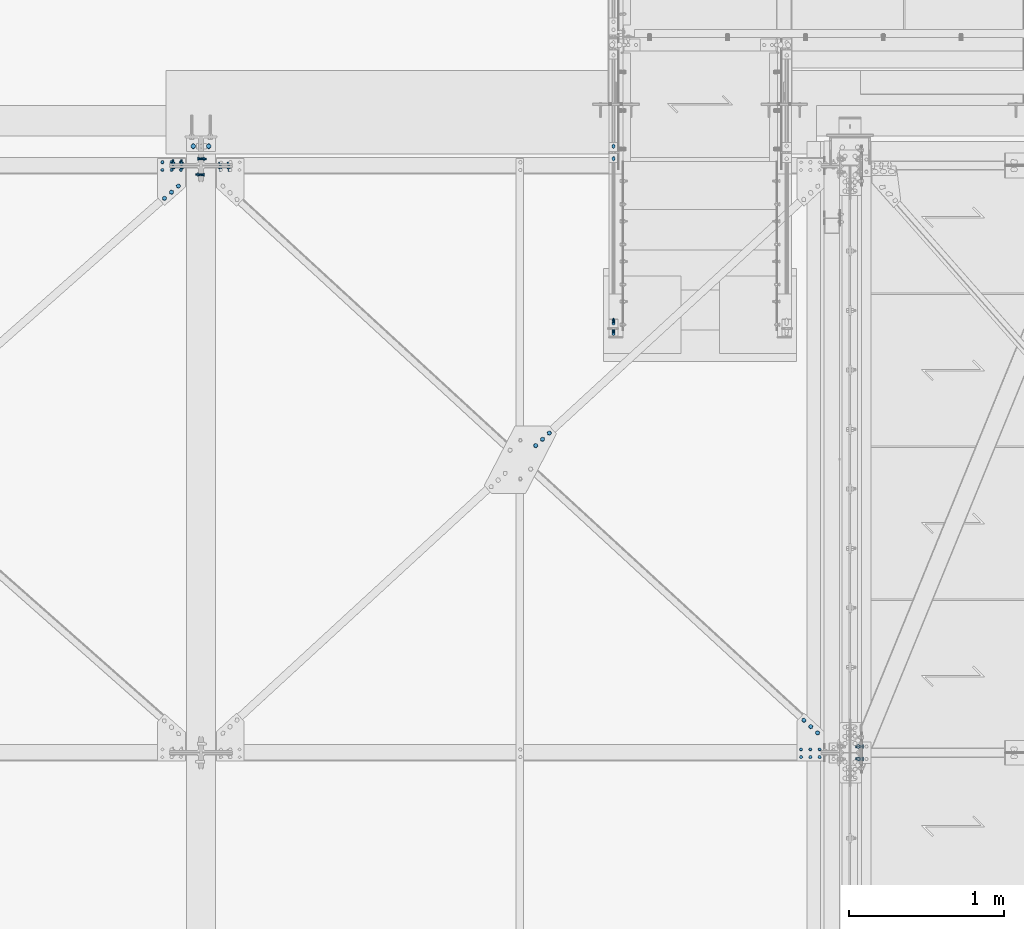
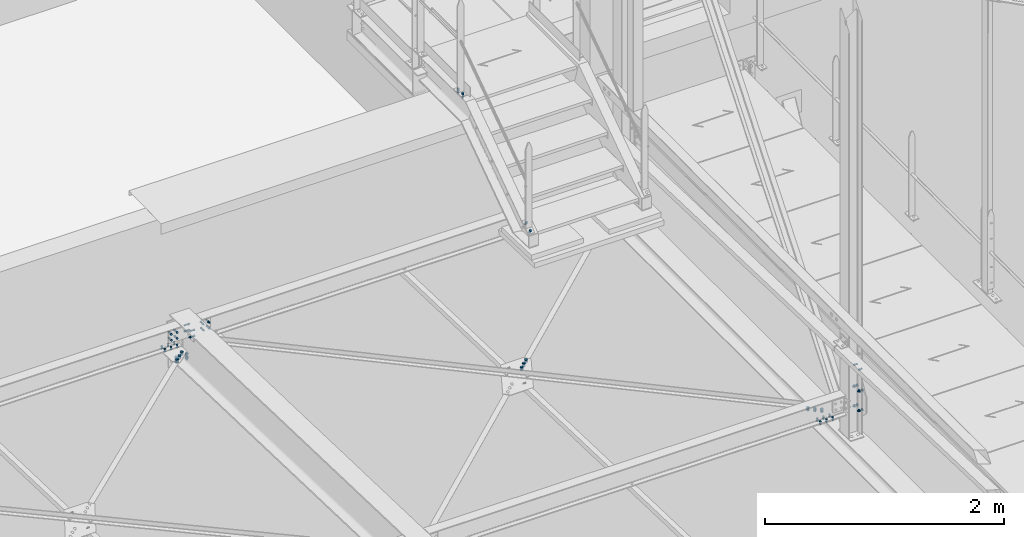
# One storey, part 155 of 362: 15 mechanical fasteners.
"""IFC2X3 building model written with IfcOpenShell, lengths in millimetres."""

from ifc_helpers import new_model, si_unit, frame, frame_2d, origin_with_axes, origin_2d_with_axis, place, context, subcontext, project, spatial, polyline, circle_curve, parameter, trimmed, segment, composite_curve, circle, outline, extrude, source, transform, mapped, material, type_object, element, save


model = new_model("IFC2X3")

# Units and contexts
model_context = context("Model", 3, precision=1e-05, world=origin_with_axes())
body_context = subcontext(model_context, "Body", "Model", "MODEL_VIEW")
ifc_project = project(units=[si_unit("LENGTHUNIT", "METRE", prefix="MILLI"), si_unit("AREAUNIT", "SQUARE_METRE"), si_unit("VOLUMEUNIT", "CUBIC_METRE"), si_unit("MASSUNIT", "GRAM", prefix="KILO"), si_unit("TIMEUNIT", "SECOND"), si_unit("PLANEANGLEUNIT", "RADIAN"), si_unit("SOLIDANGLEUNIT", "STERADIAN"), si_unit("THERMODYNAMICTEMPERATUREUNIT", "DEGREE_CELSIUS"), si_unit("LUMINOUSINTENSITYUNIT", "LUMEN")], contexts=[model_context])

# Site, building, storey
site_placement = place(None, origin_with_axes())
site = spatial("IfcSite", under=ifc_project, at=site_placement, Name="Undefined", CompositionType="ELEMENT")
building_placement = place(site_placement, origin_with_axes())
building = spatial("IfcBuilding", under=site, at=building_placement, Name="Undefined", CompositionType="ELEMENT")
storey_placement = place(building_placement, origin_with_axes())
storey = spatial("IfcBuildingStorey", under=building, at=storey_placement, Name="Undefined", CompositionType="ELEMENT", Elevation=0.0)

# Mechanical fasteners
ifc_material_1 = material(Name="8.8-SB-GALVA")
mechanical_fastener_type = type_object("IfcMechanicalFastenerType", Name="Bolt assembly")
shared_shape_1 = source(origin_with_axes(), body_context, "Body", "SweptSolid", [
    extrude(circle(Radius=7.0, at=origin_2d_with_axis()), frame((0.0, -0.0998569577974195, 0.0), z_axis=(0.0, 1.0, 0.0), x_axis=(1.0, 0.0, 0.0)), (0.0, 0.0, 1.0), 12.9),
    extrude(outline(composite_curve([segment(polyline([(-7.0, 7.0), (7.0, 7.0)]), True, "CONTINUOUS"), segment(trimmed(circle_curve(frame_2d((7.0, 0.0), x_axis=(0.0, 1.0)), 7.0), [parameter(0.0)], [parameter(3.14159265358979)], False, "PARAMETER"), True, "CONTINUOUS"), segment(polyline([(7.0, -7.0), (-7.0, -7.0)]), True, "CONTINUOUS"), segment(trimmed(circle_curve(frame_2d((-7.0, 0.0), x_axis=(0.0, -1.0)), 7.0), [parameter(0.0)], [parameter(3.14159265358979)], False, "PARAMETER"), True, "DISCONTINUOUS")], self_intersect=False)), frame((0.0, -9.9, 0.0), z_axis=(0.0, 1.0, 0.0), x_axis=(1.0, 0.0, 0.0)), (0.0, 0.0, 1.0), 10.0),
    extrude(outline(polyline([(10.39230484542, 0.0), (5.19615242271, 9.00000000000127), (-5.19615242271, 9.00000000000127), (-10.39230484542, 0.0), (-5.19615242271, -9.00000000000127), (5.19615242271, -9.00000000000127), (10.39230484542, 0.0)])), frame((0.0, -21.88, 0.0), z_axis=(0.0, 1.0, 0.0), x_axis=(1.0, 0.0, 0.0)), (0.0, 0.0, 1.0), 7.92),
    extrude(circle(Radius=6.0, at=origin_2d_with_axis()), frame((0.0, -13.96, 0.0), z_axis=(0.0, 1.0, 0.0), x_axis=(1.0, 0.0, 0.0)), (0.0, 0.0, 1.0), 50.0),
    extrude(circle(Radius=10.8, at=origin_2d_with_axis()), frame((0.0, -13.96, 0.0), z_axis=(0.0, 1.0, 0.0), x_axis=(1.0, 0.0, 0.0)), (0.0, 0.0, 1.0), 3.96),
    extrude(outline(polyline([(11.5008173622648, 0.0), (5.7504086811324, 9.96000000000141), (-5.7504086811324, 9.96000000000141), (-11.5008173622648, 0.0), (-5.7504086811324, -9.96000000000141), (5.7504086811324, -9.96000000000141), (11.5008173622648, 0.0)])), frame((0.0, 12.7985575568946, 0.0), z_axis=(0.0, 1.0, 0.0), x_axis=(1.0, 0.0, 0.0)), (0.0, 0.0, 1.0), 7.92),
])
mechanical_fastener_1_placement = place(storey_placement, frame((11149.9863365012, 14121.9152267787, 8200.94145566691), z_axis=(-1.0, 0.0, 0.0), x_axis=(0.0, 0.822192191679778, 0.56920997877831)))
element("IfcMechanicalFastener", 1, at=mechanical_fastener_1_placement, inside=storey, type_object=mechanical_fastener_type, material=ifc_material_1, Name="Bolt assembly", NominalDiameter=12.0, NominalLength=50.0, context=body_context, shape_type="MappedRepresentation", body=[
    mapped(shared_shape_1, transform((0.0, 0.0, 0.0))),
    mapped(shared_shape_1, transform((80.0, 0.0, 0.0))),
])
shared_shape_2 = source(origin_with_axes(), body_context, "Body", "SweptSolid", [
    extrude(circle(Radius=7.0, at=origin_2d_with_axis()), frame((0.0, -0.100011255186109, 0.0), z_axis=(0.0, 1.0, 0.0), x_axis=(1.0, 0.0, 0.0)), (0.0, 0.0, 1.0), 12.9),
    extrude(outline(composite_curve([segment(polyline([(-7.0, 7.0), (7.0, 7.0)]), True, "CONTINUOUS"), segment(trimmed(circle_curve(frame_2d((7.0, 0.0), x_axis=(0.0, 1.0)), 7.0), [parameter(0.0)], [parameter(3.14159265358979)], False, "PARAMETER"), True, "CONTINUOUS"), segment(polyline([(7.0, -7.0), (-7.0, -7.0)]), True, "CONTINUOUS"), segment(trimmed(circle_curve(frame_2d((-7.0, 0.0), x_axis=(0.0, -1.0)), 7.0), [parameter(0.0)], [parameter(3.14159265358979)], False, "PARAMETER"), True, "DISCONTINUOUS")], self_intersect=False)), frame((0.0, -9.9, 0.0), z_axis=(0.0, 1.0, 0.0), x_axis=(1.0, 0.0, 0.0)), (0.0, 0.0, 1.0), 10.0),
    extrude(outline(polyline([(10.39230484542, 0.0), (5.19615242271, 9.00000000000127), (-5.19615242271, 9.00000000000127), (-10.39230484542, 0.0), (-5.19615242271, -9.00000000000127), (5.19615242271, -9.00000000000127), (10.39230484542, 0.0)])), frame((0.0, -21.88, 0.0), z_axis=(0.0, 1.0, 0.0), x_axis=(1.0, 0.0, 0.0)), (0.0, 0.0, 1.0), 7.92),
    extrude(circle(Radius=6.0, at=origin_2d_with_axis()), frame((0.0, -13.96, 0.0), z_axis=(0.0, 1.0, 0.0), x_axis=(1.0, 0.0, 0.0)), (0.0, 0.0, 1.0), 50.0),
    extrude(circle(Radius=10.8, at=origin_2d_with_axis()), frame((0.0, -13.96, 0.0), z_axis=(0.0, 1.0, 0.0), x_axis=(1.0, 0.0, 0.0)), (0.0, 0.0, 1.0), 3.96),
    extrude(outline(polyline([(11.5008173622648, 0.0), (5.7504086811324, 9.96000000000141), (-5.7504086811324, 9.96000000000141), (-11.5008173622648, 0.0), (-5.7504086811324, -9.96000000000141), (5.7504086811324, -9.96000000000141), (11.5008173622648, 0.0)])), frame((0.0, 12.7985575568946, 0.0), z_axis=(0.0, 1.0, 0.0), x_axis=(1.0, 0.0, 0.0)), (0.0, 0.0, 1.0), 7.92),
])
mechanical_fastener_2_placement = place(storey_placement, frame((11149.9863365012, 15245.0038033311, 8910.0), z_axis=(-1.0, 0.0, 0.0), x_axis=(0.0, 1.0, 0.0)))
element("IfcMechanicalFastener", 2, at=mechanical_fastener_2_placement, inside=storey, type_object=mechanical_fastener_type, material=ifc_material_1, Name="Bolt assembly", NominalDiameter=12.0, NominalLength=50.0, context=body_context, shape_type="MappedRepresentation", body=[
    mapped(shared_shape_2, transform((0.0, 0.0, 0.0))),
    mapped(shared_shape_2, transform((80.0, 0.0, 0.0))),
])
ifc_material_2 = material(Name="8.8-SB-ZINGUE")
shared_shape_3 = source(origin_with_axes(), body_context, "Body", "SweptSolid", [
    extrude(circle(Radius=9.0, at=origin_2d_with_axis()), frame((0.0, -0.0917710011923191, 0.0), z_axis=(0.0, 1.0, 0.0), x_axis=(1.0, 0.0, 0.0)), (0.0, 0.0, 1.0), 8.6),
    extrude(circle(Radius=9.0, at=origin_2d_with_axis()), frame((0.0, -9.9, 0.0), z_axis=(0.0, 1.0, 0.0), x_axis=(1.0, 0.0, 0.0)), (0.0, 0.0, 1.0), 10.0),
    extrude(outline(polyline([(13.85640646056, 0.0), (6.92820323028, 12.0000000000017), (-6.92820323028, 12.0000000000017), (-13.85640646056, 0.0), (-6.92820323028, -12.0000000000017), (6.92820323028, -12.0000000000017), (13.85640646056, 0.0)])), frame((0.0, -20.5600000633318, 0.0), z_axis=(0.0, 1.0, 0.0), x_axis=(1.0, 0.0, 0.0)), (0.0, 0.0, 1.0), 10.56),
    extrude(circle(Radius=8.0, at=origin_2d_with_axis()), frame((0.0, -10.0000010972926, 0.0), z_axis=(0.0, 1.0, 0.0), x_axis=(1.0, 0.0, 0.0)), (0.0, 0.0, 1.0), 40.0),
    extrude(outline(polyline([(15.3344231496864, 0.0), (7.6672115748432, 13.2800000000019), (-7.6672115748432, 13.2800000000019), (-15.3344231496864, 0.0), (-7.6672115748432, -13.2800000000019), (7.6672115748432, -13.2800000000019), (15.3344231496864, 0.0)])), frame((0.0, 8.50822899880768, 0.0), z_axis=(0.0, 1.0, 0.0), x_axis=(1.0, 0.0, 0.0)), (0.0, 0.0, 1.0), 10.56),
])
for number, where, z_axis, x_axis, name in (
    (3, (12746.5082289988, 11400.0000003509, 7491.69334968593), (0.0, -1.0, 0.0), (0.0, 0.0, 1.0), "Bolt assembly"),
    (4, (12746.5082289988, 11400.0000001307, 7691.69334975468), (0.0, 1.0, 0.0), (0.0, 0.0, -1.0), "Bolt assembly"),
):
    element("IfcMechanicalFastener", number, at=place(storey_placement, frame(where, z_axis=z_axis, x_axis=x_axis)), inside=storey, type_object=mechanical_fastener_type, material=ifc_material_2, Name=name, NominalDiameter=16.0, NominalLength=40.0, context=body_context, shape_type="MappedRepresentation", body=[
        mapped(shared_shape_3, transform((0.0, 0.0, -40.0))),
        mapped(shared_shape_3, transform((0.0, 0.0, 40.0))),
    ])
shared_shape_4 = source(origin_with_axes(), body_context, "Body", "SweptSolid", [
    extrude(circle(Radius=9.0, at=origin_2d_with_axis()), frame((0.0, -4.89677993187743, 0.0), z_axis=(0.0, 1.0, 0.0), x_axis=(1.0, 0.0, 0.0)), (0.0, 0.0, 1.0), 5.0),
    extrude(circle(Radius=9.0, at=origin_2d_with_axis()), frame((0.0, -0.100011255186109, 0.0), z_axis=(0.0, 1.0, 0.0), x_axis=(1.0, 0.0, 0.0)), (0.0, 0.0, 1.0), 6.1),
    extrude(outline(polyline([(13.85640646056, 0.0), (6.92820323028, 12.0000000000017), (-6.92820323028, 12.0000000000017), (-13.85640646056, 0.0), (-6.92820323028, -12.0000000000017), (6.92820323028, -12.0000000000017), (13.85640646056, 0.0)])), frame((0.0, -15.5567799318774, 0.0), z_axis=(0.0, 1.0, 0.0), x_axis=(1.0, 0.0, 0.0)), (0.0, 0.0, 1.0), 10.56),
    extrude(circle(Radius=8.0, at=origin_2d_with_axis()), frame((0.0, -4.99677993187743, 0.0), z_axis=(0.0, 1.0, 0.0), x_axis=(1.0, 0.0, 0.0)), (0.0, 0.0, 1.0), 30.0),
    extrude(outline(polyline([(15.3344231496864, 0.0), (7.6672115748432, 13.2800000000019), (-7.6672115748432, 13.2800000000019), (-15.3344231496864, 0.0), (-7.6672115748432, -13.2800000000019), (7.6672115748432, -13.2800000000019), (15.3344231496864, 0.0)])), frame((0.0, 6.0, 0.0), z_axis=(0.0, 1.0, 0.0), x_axis=(1.0, 0.0, 0.0)), (0.0, 0.0, 1.0), 10.56),
])
mechanical_fastener_3_placement = place(storey_placement, frame((12469.9723570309, 11528.8000645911, 7487.59572898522), z_axis=(-0.676965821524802, -0.735651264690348, 0.023119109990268), x_axis=(-0.736014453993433, 0.676631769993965, -0.0212643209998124)))
element("IfcMechanicalFastener", 5, at=mechanical_fastener_3_placement, inside=storey, type_object=mechanical_fastener_type, material=ifc_material_2, Name="Bolt assembly", NominalDiameter=16.0, NominalLength=30.0, context=body_context, shape_type="MappedRepresentation", body=[
    mapped(shared_shape_4, transform((0.0, 0.0, 0.0))),
    mapped(shared_shape_4, transform((60.0, 0.0, 0.0))),
    mapped(shared_shape_4, transform((120.0, 0.0, 0.0))),
])
shared_shape_5 = source(origin_with_axes(), body_context, "Body", "SweptSolid", [
    extrude(circle(Radius=7.0, at=origin_2d_with_axis()), frame((0.0, -8.3982731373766, 0.0), z_axis=(0.0, 1.0, 0.0), x_axis=(1.0, 0.0, 0.0)), (0.0, 0.0, 1.0), 8.5),
    extrude(circle(Radius=7.0, at=origin_2d_with_axis()), frame((0.0, -0.100011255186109, 0.0), z_axis=(0.0, 1.0, 0.0), x_axis=(1.0, 0.0, 0.0)), (0.0, 0.0, 1.0), 6.1),
    extrude(outline(polyline([(10.39230484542, 0.0), (5.19615242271, 9.00000000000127), (-5.19615242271, 9.00000000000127), (-10.39230484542, 0.0), (-5.19615242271, -9.00000000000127), (5.19615242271, -9.00000000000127), (10.39230484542, 0.0)])), frame((0.0, -16.4182731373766, 0.0), z_axis=(0.0, 1.0, 0.0), x_axis=(1.0, 0.0, 0.0)), (0.0, 0.0, 1.0), 7.92),
    extrude(circle(Radius=6.0, at=origin_2d_with_axis()), frame((0.0, -8.4982731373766, 0.0), z_axis=(0.0, 1.0, 0.0), x_axis=(1.0, 0.0, 0.0)), (0.0, 0.0, 1.0), 30.0),
    extrude(outline(polyline([(11.5008173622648, 0.0), (5.7504086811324, 9.96000000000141), (-5.7504086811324, 9.96000000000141), (-11.5008173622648, 0.0), (-5.7504086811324, -9.96000000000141), (5.7504086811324, -9.96000000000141), (11.5008173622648, 0.0)])), frame((0.0, 6.0, 0.0), z_axis=(0.0, 1.0, 0.0), x_axis=(1.0, 0.0, 0.0)), (0.0, 0.0, 1.0), 7.92),
])
mechanical_fastener_4_placement = place(storey_placement, frame((12483.4999930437, 11396.8549319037, 7491.74233246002), z_axis=(0.0, -0.999506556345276, 0.031410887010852), x_axis=(-1.0, 0.0, 0.0)))
element("IfcMechanicalFastener", 6, at=mechanical_fastener_4_placement, inside=storey, type_object=mechanical_fastener_type, material=ifc_material_2, Name="Bolt assembly", NominalDiameter=12.0, NominalLength=30.0, context=body_context, shape_type="MappedRepresentation", body=[
    mapped(shared_shape_5, transform((0.0, 0.0, 25.0))),
    mapped(shared_shape_5, transform((60.00000000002, -1.00044417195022e-11, 24.9999999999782))),
    mapped(shared_shape_5, transform((120.00000000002, -1.90993887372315e-11, 24.9999999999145))),
    mapped(shared_shape_5, transform((0.0, 0.0, -25.0))),
    mapped(shared_shape_5, transform((59.9999999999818, -8.18545231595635e-12, -25.0000000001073))),
    mapped(shared_shape_5, transform((119.999999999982, -1.72803993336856e-11, -25.0000000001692))),
])
shared_shape_6 = source(origin_with_axes(), body_context, "Body", "SweptSolid", [
    extrude(circle(Radius=9.0, at=origin_2d_with_axis()), frame((0.0, 5.89749077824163, 0.0), z_axis=(0.0, 1.0, 0.0), x_axis=(1.0, 0.0, 0.0)), (0.0, 0.0, 1.0), 5.1),
    extrude(circle(Radius=9.0, at=origin_2d_with_axis()), frame((0.0, 0.1, 0.0), z_axis=(0.0, 1.0, 0.0), x_axis=(1.0, 0.0, 0.0)), (0.0, 0.0, 1.0), 6.0),
    extrude(outline(polyline([(13.85640646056, 0.0), (6.92820323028, 12.0000000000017), (-6.92820323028, 12.0000000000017), (-13.85640646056, 0.0), (-6.92820323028, -12.0000000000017), (6.92820323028, -12.0000000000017), (13.85640646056, 0.0)])), frame((0.0, -10.5600019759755, 0.0), z_axis=(0.0, 1.0, 0.0), x_axis=(1.0, 0.0, 0.0)), (0.0, 0.0, 1.0), 10.56),
    extrude(circle(Radius=8.0, at=origin_2d_with_axis()), frame((0.0, 0.0, 0.0), z_axis=(0.0, 1.0, 0.0), x_axis=(1.0, 0.0, 0.0)), (0.0, 0.0, 1.0), 30.0),
    extrude(outline(polyline([(15.3344231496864, 0.0), (7.6672115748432, 13.2800000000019), (-7.6672115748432, 13.2800000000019), (-15.3344231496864, 0.0), (-7.6672115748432, -13.2800000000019), (7.6672115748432, -13.2800000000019), (15.3344231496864, 0.0)])), frame((0.0, 10.9974907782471, 0.0), z_axis=(0.0, 1.0, 0.0), x_axis=(1.0, 0.0, 0.0)), (0.0, 0.0, 1.0), 10.56),
])
mechanical_fastener_5_placement = place(storey_placement, frame((8333.90852928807, 15067.7555193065, 7376.3779468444), z_axis=(0.662411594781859, -0.748770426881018, 0.023531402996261), x_axis=(-0.749140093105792, -0.662084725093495, 0.0208071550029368)))
element("IfcMechanicalFastener", 7, at=mechanical_fastener_5_placement, inside=storey, type_object=mechanical_fastener_type, material=ifc_material_2, Name="Bolt assembly", NominalDiameter=16.0, NominalLength=30.0, context=body_context, shape_type="MappedRepresentation", body=[
    mapped(shared_shape_6, transform((0.0, 0.0, 0.0))),
    mapped(shared_shape_6, transform((60.0, 0.0, 0.0))),
    mapped(shared_shape_6, transform((120.0, 0.0, 0.0))),
])
shared_shape_7 = source(origin_with_axes(), body_context, "Body", "SweptSolid", [
    extrude(circle(Radius=7.0, at=origin_2d_with_axis()), frame((0.0, -8.40001950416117, 0.0), z_axis=(0.0, 1.0, 0.0), x_axis=(1.0, 0.0, 0.0)), (0.0, 0.0, 1.0), 8.5),
    extrude(circle(Radius=7.0, at=origin_2d_with_axis()), frame((0.0, -0.100011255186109, 0.0), z_axis=(0.0, 1.0, 0.0), x_axis=(1.0, 0.0, 0.0)), (0.0, 0.0, 1.0), 6.1),
    extrude(outline(polyline([(10.39230484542, 0.0), (5.19615242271, 9.00000000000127), (-5.19615242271, 9.00000000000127), (-10.39230484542, 0.0), (-5.19615242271, -9.00000000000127), (5.19615242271, -9.00000000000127), (10.39230484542, 0.0)])), frame((0.0, -16.4200195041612, 0.0), z_axis=(0.0, 1.0, 0.0), x_axis=(1.0, 0.0, 0.0)), (0.0, 0.0, 1.0), 7.92),
    extrude(circle(Radius=6.0, at=origin_2d_with_axis()), frame((0.0, -8.5, 0.0), z_axis=(0.0, 1.0, 0.0), x_axis=(1.0, 0.0, 0.0)), (0.0, 0.0, 1.0), 30.0),
    extrude(outline(polyline([(11.5008173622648, 0.0), (5.7504086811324, 9.96000000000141), (-5.7504086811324, 9.96000000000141), (-11.5008173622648, 0.0), (-5.7504086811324, -9.96000000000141), (5.7504086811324, -9.96000000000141), (11.5008173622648, 0.0)])), frame((0.0, 6.0, 0.0), z_axis=(0.0, 1.0, 0.0), x_axis=(1.0, 0.0, 0.0)), (0.0, 0.0, 1.0), 7.92),
])
mechanical_fastener_6_placement = place(storey_placement, frame((8349.9999930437, 15196.8588775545, 7372.32065103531), z_axis=(0.0, -0.999506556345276, 0.031410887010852), x_axis=(-1.0, 0.0, 0.0)))
element("IfcMechanicalFastener", 8, at=mechanical_fastener_6_placement, inside=storey, type_object=mechanical_fastener_type, material=ifc_material_2, Name="Bolt assembly", NominalDiameter=12.0, NominalLength=30.0, context=body_context, shape_type="MappedRepresentation", body=[
    mapped(shared_shape_7, transform((0.0, 0.0, -25.0))),
    mapped(shared_shape_7, transform((59.9999999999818, -8.18545231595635e-12, -25.0000000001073))),
    mapped(shared_shape_7, transform((119.999999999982, -1.72803993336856e-11, -25.0000000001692))),
    mapped(shared_shape_7, transform((0.0, 0.0, 25.0))),
    mapped(shared_shape_7, transform((60.00000000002, -1.00044417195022e-11, 24.9999999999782))),
    mapped(shared_shape_7, transform((120.00000000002, -1.90993887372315e-11, 24.9999999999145))),
])
shared_shape_8 = source(origin_with_axes(), body_context, "Body", "SweptSolid", [
    extrude(circle(Radius=9.0, at=origin_2d_with_axis()), frame((0.0, 5.90108949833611, 0.0), z_axis=(0.0, 1.0, 0.0), x_axis=(1.0, 0.0, 0.0)), (0.0, 0.0, 1.0), 5.1),
    extrude(circle(Radius=9.0, at=origin_2d_with_axis()), frame((0.0, 0.1, 0.0), z_axis=(0.0, 1.0, 0.0), x_axis=(1.0, 0.0, 0.0)), (0.0, 0.0, 1.0), 6.0),
    extrude(outline(polyline([(13.85640646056, 0.0), (6.92820323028, 12.0000000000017), (-6.92820323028, 12.0000000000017), (-13.85640646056, 0.0), (-6.92820323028, -12.0000000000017), (6.92820323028, -12.0000000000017), (13.85640646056, 0.0)])), frame((0.0, -10.5600019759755, 0.0), z_axis=(0.0, 1.0, 0.0), x_axis=(1.0, 0.0, 0.0)), (0.0, 0.0, 1.0), 10.56),
    extrude(circle(Radius=8.0, at=origin_2d_with_axis()), frame((0.0, 0.0, 0.0), z_axis=(0.0, 1.0, 0.0), x_axis=(1.0, 0.0, 0.0)), (0.0, 0.0, 1.0), 30.0),
    extrude(outline(polyline([(15.3344231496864, 0.0), (7.6672115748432, 13.2800000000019), (-7.6672115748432, 13.2800000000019), (-15.3344231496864, 0.0), (-7.6672115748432, -13.2800000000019), (7.6672115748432, -13.2800000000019), (15.3344231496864, 0.0)])), frame((0.0, 11.0010894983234, 0.0), z_axis=(0.0, 1.0, 0.0), x_axis=(1.0, 0.0, 0.0)), (0.0, 0.0, 1.0), 10.56),
])
mechanical_fastener_7_placement = place(storey_placement, frame((10646.1119901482, 13388.2050228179, 7429.16071950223), z_axis=(-0.676965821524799, 0.735651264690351, -0.0231191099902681), x_axis=(0.736014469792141, 0.67663175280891, -0.0212643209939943)))
element("IfcMechanicalFastener", 9, at=mechanical_fastener_7_placement, inside=storey, type_object=mechanical_fastener_type, material=ifc_material_2, Name="Bolt assembly", NominalDiameter=16.0, NominalLength=30.0, context=body_context, shape_type="MappedRepresentation", body=[
    mapped(shared_shape_8, transform((0.0, 0.0, 0.0))),
    mapped(shared_shape_8, transform((60.0, 0.0, 0.0))),
    mapped(shared_shape_8, transform((120.0, 0.0, 0.0))),
])
shared_shape_9 = source(origin_with_axes(), body_context, "Body", "SweptSolid", [
    extrude(circle(Radius=7.0, at=origin_2d_with_axis()), frame((0.0, -4.69999899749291, 0.0), z_axis=(0.0, 1.0, 0.0), x_axis=(1.0, 0.0, 0.0)), (0.0, 0.0, 1.0), 9.4),
    extrude(circle(Radius=7.0, at=origin_2d_with_axis()), frame((0.0, 4.9000000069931, 0.0), z_axis=(0.0, 1.0, 0.0), x_axis=(1.0, 0.0, 0.0)), (0.0, 0.0, 1.0), 10.1),
    extrude(circle(Radius=7.0, at=origin_2d_with_axis()), frame((0.0, -14.899999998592, 0.0), z_axis=(0.0, 1.0, 0.0), x_axis=(1.0, 0.0, 0.0)), (0.0, 0.0, 1.0), 10.0),
    extrude(outline(polyline([(10.39230484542, 0.0), (5.19615242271, 9.00000000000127), (-5.19615242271, 9.00000000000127), (-10.39230484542, 0.0), (-5.19615242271, -9.00000000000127), (5.19615242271, -9.00000000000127), (10.39230484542, 0.0)])), frame((0.0, -22.919999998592, 0.0), z_axis=(0.0, 1.0, 0.0), x_axis=(1.0, 0.0, 0.0)), (0.0, 0.0, 1.0), 7.92),
    extrude(circle(Radius=6.0, at=origin_2d_with_axis()), frame((0.0, -14.999999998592, 0.0), z_axis=(0.0, 1.0, 0.0), x_axis=(1.0, 0.0, 0.0)), (0.0, 0.0, 1.0), 50.0),
    extrude(outline(polyline([(11.5008173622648, 0.0), (5.7504086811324, 9.96000000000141), (-5.7504086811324, 9.96000000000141), (-11.5008173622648, 0.0), (-5.7504086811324, -9.96000000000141), (5.7504086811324, -9.96000000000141), (11.5008173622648, 0.0)])), frame((0.0, 15.0000000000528, 0.0), z_axis=(0.0, 1.0, 0.0), x_axis=(1.0, 0.0, 0.0)), (0.0, 0.0, 1.0), 7.92),
])
mechanical_fastener_8_placement = place(storey_placement, frame((8479.9999991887, 15242.9795174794, 7470.91528481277), z_axis=(0.0, 0.0314148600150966, 0.999506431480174), x_axis=(0.0, -0.999506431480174, 0.0314148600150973)))
element("IfcMechanicalFastener", 10, at=mechanical_fastener_8_placement, inside=storey, type_object=mechanical_fastener_type, material=ifc_material_2, Name="Bolt assembly", NominalDiameter=12.0, NominalLength=50.0, context=body_context, shape_type="MappedRepresentation", body=[
    mapped(shared_shape_9, transform((0.0, 0.0, -30.0))),
    mapped(shared_shape_9, transform((0.0, 0.0, 30.0))),
])
shared_shape_10 = source(origin_with_axes(), body_context, "Body", "SweptSolid", [
    extrude(circle(Radius=7.0, at=origin_2d_with_axis()), frame((0.0, -5.60090332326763, 0.0), z_axis=(0.0, 1.0, 0.0), x_axis=(1.0, 0.0, 0.0)), (0.0, 0.0, 1.0), 5.6),
    extrude(circle(Radius=7.0, at=origin_2d_with_axis()), frame((0.0, -15.7008623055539, 0.0), z_axis=(0.0, 1.0, 0.0), x_axis=(1.0, 0.0, 0.0)), (0.0, 0.0, 1.0), 10.0),
    extrude(circle(Radius=7.0, at=origin_2d_with_axis()), frame((0.0, 0.1, 0.0), z_axis=(0.0, 1.0, 0.0), x_axis=(1.0, 0.0, 0.0)), (0.0, 0.0, 1.0), 10.1),
    extrude(outline(polyline([(10.39230484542, 0.0), (5.19615242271, 9.00000000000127), (-5.19615242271, 9.00000000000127), (-10.39230484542, 0.0), (-5.19615242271, -9.00000000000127), (5.19615242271, -9.00000000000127), (10.39230484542, 0.0)])), frame((0.0, -23.7208623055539, 0.0), z_axis=(0.0, 1.0, 0.0), x_axis=(1.0, 0.0, 0.0)), (0.0, 0.0, 1.0), 7.92),
    extrude(circle(Radius=6.0, at=origin_2d_with_axis()), frame((0.0, -15.8008623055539, 0.0), z_axis=(0.0, 1.0, 0.0), x_axis=(1.0, 0.0, 0.0)), (0.0, 0.0, 1.0), 50.0),
    extrude(outline(polyline([(11.5008173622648, 0.0), (5.7504086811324, 9.96000000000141), (-5.7504086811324, 9.96000000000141), (-11.5008173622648, 0.0), (-5.7504086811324, -9.96000000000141), (5.7504086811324, -9.96000000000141), (11.5008173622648, 0.0)])), frame((0.0, 10.1999997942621, 0.0), z_axis=(0.0, 1.0, 0.0), x_axis=(1.0, 0.0, 0.0)), (0.0, 0.0, 1.0), 7.92),
])
mechanical_fastener_9_placement = place(storey_placement, frame((8299.99999918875, 15202.7993579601, 7472.17813040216), z_axis=(7.58071938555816e-11, 0.0314107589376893, 0.999506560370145), x_axis=(1.0, 0.0, 0.0)))
element("IfcMechanicalFastener", 11, at=mechanical_fastener_9_placement, inside=storey, type_object=mechanical_fastener_type, material=ifc_material_2, Name="Bolt assembly", NominalDiameter=12.0, NominalLength=50.0, context=body_context, shape_type="MappedRepresentation", body=[
    mapped(shared_shape_10, transform((0.0, 0.0, -30.0))),
    mapped(shared_shape_10, transform((55.0000000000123, 3.45607986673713e-11, -30.0000000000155))),
    mapped(shared_shape_10, transform((0.0, 0.0, 30.0))),
    mapped(shared_shape_10, transform((54.9999999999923, 3.45607986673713e-11, 29.9999999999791))),
])
shared_shape_11 = source(origin_with_axes(), body_context, "Body", "SweptSolid", [
    extrude(circle(Radius=7.0, at=origin_2d_with_axis()), frame((0.0, -4.69999899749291, 0.0), z_axis=(0.0, 1.0, 0.0), x_axis=(1.0, 0.0, 0.0)), (0.0, 0.0, 1.0), 9.4),
    extrude(circle(Radius=7.0, at=origin_2d_with_axis()), frame((0.0, -14.899999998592, 0.0), z_axis=(0.0, 1.0, 0.0), x_axis=(1.0, 0.0, 0.0)), (0.0, 0.0, 1.0), 10.0),
    extrude(circle(Radius=7.0, at=origin_2d_with_axis()), frame((0.0, 4.9000000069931, 0.0), z_axis=(0.0, 1.0, 0.0), x_axis=(1.0, 0.0, 0.0)), (0.0, 0.0, 1.0), 10.1),
    extrude(outline(polyline([(10.39230484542, 0.0), (5.19615242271, 9.00000000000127), (-5.19615242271, 9.00000000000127), (-10.39230484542, 0.0), (-5.19615242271, -9.00000000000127), (5.19615242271, -9.00000000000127), (10.39230484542, 0.0)])), frame((0.0, -22.919999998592, 0.0), z_axis=(0.0, 1.0, 0.0), x_axis=(1.0, 0.0, 0.0)), (0.0, 0.0, 1.0), 7.92),
    extrude(circle(Radius=6.0, at=origin_2d_with_axis()), frame((0.0, -14.999999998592, 0.0), z_axis=(0.0, 1.0, 0.0), x_axis=(1.0, 0.0, 0.0)), (0.0, 0.0, 1.0), 50.0),
    extrude(outline(polyline([(11.5008173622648, 0.0), (5.7504086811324, 9.96000000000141), (-5.7504086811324, 9.96000000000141), (-11.5008173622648, 0.0), (-5.7504086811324, -9.96000000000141), (5.7504086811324, -9.96000000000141), (11.5008173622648, 0.0)])), frame((0.0, 15.0000000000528, 0.0), z_axis=(0.0, 1.0, 0.0), x_axis=(1.0, 0.0, 0.0)), (0.0, 0.0, 1.0), 7.92),
])
mechanical_fastener_10_placement = place(storey_placement, frame((8479.9999991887, 15142.0284979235, 7474.08795419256), z_axis=(7.58071938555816e-11, 0.0314107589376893, 0.999506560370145), x_axis=(3.14103090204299e-11, 0.999506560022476, -0.0314107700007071)))
element("IfcMechanicalFastener", 12, at=mechanical_fastener_10_placement, inside=storey, type_object=mechanical_fastener_type, material=ifc_material_2, Name="Bolt assembly", NominalDiameter=12.0, NominalLength=50.0, context=body_context, shape_type="MappedRepresentation", body=[
    mapped(shared_shape_11, transform((0.0, 0.0, -30.0))),
    mapped(shared_shape_11, transform((0.0, 0.0, 30.0))),
])
shared_shape_12 = source(origin_with_axes(), body_context, "Body", "SweptSolid", [
    extrude(circle(Radius=7.0, at=origin_2d_with_axis()), frame((0.0, -5.59995888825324, 0.0), z_axis=(0.0, 1.0, 0.0), x_axis=(1.0, 0.0, 0.0)), (0.0, 0.0, 1.0), 5.6),
    extrude(circle(Radius=7.0, at=origin_2d_with_axis()), frame((0.0, 0.1, 0.0), z_axis=(0.0, 1.0, 0.0), x_axis=(1.0, 0.0, 0.0)), (0.0, 0.0, 1.0), 10.1),
    extrude(circle(Radius=7.0, at=origin_2d_with_axis()), frame((0.0, -15.7008623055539, 0.0), z_axis=(0.0, 1.0, 0.0), x_axis=(1.0, 0.0, 0.0)), (0.0, 0.0, 1.0), 10.0),
    extrude(outline(polyline([(10.39230484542, 0.0), (5.19615242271, 9.00000000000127), (-5.19615242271, 9.00000000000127), (-10.39230484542, 0.0), (-5.19615242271, -9.00000000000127), (5.19615242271, -9.00000000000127), (10.39230484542, 0.0)])), frame((0.0, -23.7208623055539, 0.0), z_axis=(0.0, 1.0, 0.0), x_axis=(1.0, 0.0, 0.0)), (0.0, 0.0, 1.0), 7.92),
    extrude(circle(Radius=6.0, at=origin_2d_with_axis()), frame((0.0, -15.8008623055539, 0.0), z_axis=(0.0, 1.0, 0.0), x_axis=(1.0, 0.0, 0.0)), (0.0, 0.0, 1.0), 50.0),
    extrude(outline(polyline([(11.5008173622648, 0.0), (5.7504086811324, 9.96000000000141), (-5.7504086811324, 9.96000000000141), (-11.5008173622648, 0.0), (-5.7504086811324, -9.96000000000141), (5.7504086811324, -9.96000000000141), (11.5008173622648, 0.0)])), frame((0.0, 10.1999997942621, 0.0), z_axis=(0.0, 1.0, 0.0), x_axis=(1.0, 0.0, 0.0)), (0.0, 0.0, 1.0), 7.92),
])
mechanical_fastener_11_placement = place(storey_placement, frame((8659.99999918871, 15197.2012594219, 7472.35406030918), z_axis=(7.58071938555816e-11, 0.0314107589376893, 0.999506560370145), x_axis=(-1.0, 0.0, 0.0)))
element("IfcMechanicalFastener", 13, at=mechanical_fastener_11_placement, inside=storey, type_object=mechanical_fastener_type, material=ifc_material_2, Name="Bolt assembly", NominalDiameter=12.0, NominalLength=50.0, context=body_context, shape_type="MappedRepresentation", body=[
    mapped(shared_shape_12, transform((0.0, 0.0, -30.0))),
    mapped(shared_shape_12, transform((55.0000000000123, 3.45607986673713e-11, -30.0000000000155))),
    mapped(shared_shape_12, transform((0.0, 0.0, 30.0))),
    mapped(shared_shape_12, transform((54.9999999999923, 3.45607986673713e-11, 29.9999999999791))),
])
shared_shape_13 = source(origin_with_axes(), body_context, "Body", "SweptSolid", [
    extrude(circle(Radius=7.0, at=origin_2d_with_axis()), frame((0.0, -0.0917710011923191, 0.0), z_axis=(0.0, 1.0, 0.0), x_axis=(1.0, 0.0, 0.0)), (0.0, 0.0, 1.0), 8.6),
    extrude(circle(Radius=7.0, at=origin_2d_with_axis()), frame((0.0, -6.9, 0.0), z_axis=(0.0, 1.0, 0.0), x_axis=(1.0, 0.0, 0.0)), (0.0, 0.0, 1.0), 7.0),
    extrude(outline(polyline([(10.39230484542, 0.0), (5.19615242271, 9.00000000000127), (-5.19615242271, 9.00000000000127), (-10.39230484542, 0.0), (-5.19615242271, -9.00000000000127), (5.19615242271, -9.00000000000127), (10.39230484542, 0.0)])), frame((0.0, -14.92, 0.0), z_axis=(0.0, 1.0, 0.0), x_axis=(1.0, 0.0, 0.0)), (0.0, 0.0, 1.0), 7.92),
    extrude(circle(Radius=6.0, at=origin_2d_with_axis()), frame((0.0, -7.0, 0.0), z_axis=(0.0, 1.0, 0.0), x_axis=(1.0, 0.0, 0.0)), (0.0, 0.0, 1.0), 30.0),
    extrude(outline(polyline([(11.5008173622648, 0.0), (5.7504086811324, 9.96000000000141), (-5.7504086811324, 9.96000000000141), (-11.5008173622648, 0.0), (-5.7504086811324, -9.96000000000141), (5.7504086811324, -9.96000000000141), (11.5008173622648, 0.0)])), frame((0.0, 8.50822899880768, 0.0), z_axis=(0.0, 1.0, 0.0), x_axis=(1.0, 0.0, 0.0)), (0.0, 0.0, 1.0), 7.92),
])
mechanical_fastener_12_placement = place(storey_placement, frame((12746.5082291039, 11399.9999999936, 7910.00000000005), z_axis=(0.0, -1.0, 0.0), x_axis=(0.0, 0.0, 1.0)))
element("IfcMechanicalFastener", 14, at=mechanical_fastener_12_placement, inside=storey, type_object=mechanical_fastener_type, material=ifc_material_2, Name="Bolt assembly", NominalDiameter=12.0, NominalLength=30.0, context=body_context, shape_type="MappedRepresentation", body=[
    mapped(shared_shape_13, transform((0.0, 0.0, -40.0))),
    mapped(shared_shape_13, transform((0.0, 0.0, 40.0))),
])
ifc_material_3 = material(Name="HR10.9")
shared_shape_14 = source(origin_with_axes(), body_context, "Body", "SweptSolid", [
    extrude(circle(Radius=9.0, at=origin_2d_with_axis()), frame((0.0, -14.5000000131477, 0.0), z_axis=(0.0, 1.0, 0.0), x_axis=(1.0, 0.0, 0.0)), (0.0, 0.0, 1.0), 14.6),
    extrude(outline(composite_curve([segment(polyline([(-9.0, 9.0), (9.0, 9.0)]), True, "CONTINUOUS"), segment(trimmed(circle_curve(frame_2d((9.0, 0.0), x_axis=(0.0, 1.0)), 9.0), [parameter(0.0)], [parameter(3.14159265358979)], False, "PARAMETER"), True, "CONTINUOUS"), segment(polyline([(9.0, -9.0), (-9.0, -9.0)]), True, "CONTINUOUS"), segment(trimmed(circle_curve(frame_2d((-9.0, 0.0), x_axis=(0.0, -1.0)), 9.0), [parameter(0.0)], [parameter(3.14159265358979)], False, "PARAMETER"), True, "DISCONTINUOUS")], self_intersect=False)), frame((0.0, -0.100011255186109, 0.0), z_axis=(0.0, 1.0, 0.0), x_axis=(1.0, 0.0, 0.0)), (0.0, 0.0, 1.0), 10.1),
    extrude(outline(polyline([(15.58845726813, 0.0), (7.794228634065, 13.5000000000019), (-7.794228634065, 13.5000000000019), (-15.58845726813, 0.0), (-7.794228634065, -13.5000000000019), (7.794228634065, -13.5000000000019), (15.58845726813, 0.0)])), frame((0.0, -28.6000003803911, 0.0), z_axis=(0.0, 1.0, 0.0), x_axis=(1.0, 0.0, 0.0)), (0.0, 0.0, 1.0), 10.0),
    extrude(circle(Radius=8.0, at=origin_2d_with_axis()), frame((0.0, -18.6000003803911, 0.0), z_axis=(0.0, 1.0, 0.0), x_axis=(1.0, 0.0, 0.0)), (0.0, 0.0, 1.0), 60.0),
    extrude(circle(Radius=15.0, at=origin_2d_with_axis()), frame((0.0, -18.6000003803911, 0.0), z_axis=(0.0, 1.0, 0.0), x_axis=(1.0, 0.0, 0.0)), (0.0, 0.0, 1.0), 4.0),
    extrude(circle(Radius=15.0, at=origin_2d_with_axis()), frame((0.0, 10.0000000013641, 0.0), z_axis=(0.0, 1.0, 0.0), x_axis=(1.0, 0.0, 0.0)), (0.0, 0.0, 1.0), 4.0),
    extrude(outline(polyline([(15.58845726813, 0.0), (7.794228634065, 13.5000000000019), (-7.794228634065, 13.5000000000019), (-15.58845726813, 0.0), (-7.794228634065, -13.5000000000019), (7.794228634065, -13.5000000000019), (15.58845726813, 0.0)])), frame((0.0, 13.9999928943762, 0.0), z_axis=(0.0, 1.0, 0.0), x_axis=(1.0, 0.0, 0.0)), (0.0, 0.0, 1.0), 15.0),
])
mechanical_fastener_13_placement = place(storey_placement, frame((8480.0, 15325.0320735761, 7118.16930849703), z_axis=(-1.0, 0.0, 0.0), x_axis=(3.14103090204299e-11, 0.999506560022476, -0.0314107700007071)))
element("IfcMechanicalFastener", 15, at=mechanical_fastener_13_placement, inside=storey, type_object=mechanical_fastener_type, material=ifc_material_3, Name="Bolt assembly", NominalDiameter=16.0, NominalLength=60.0, context=body_context, shape_type="MappedRepresentation", body=[
    mapped(shared_shape_14, transform((0.0, 0.0, -50.0))),
    mapped(shared_shape_14, transform((0.0, 0.0, 50.0))),
])

save(model, "model.ifc")
